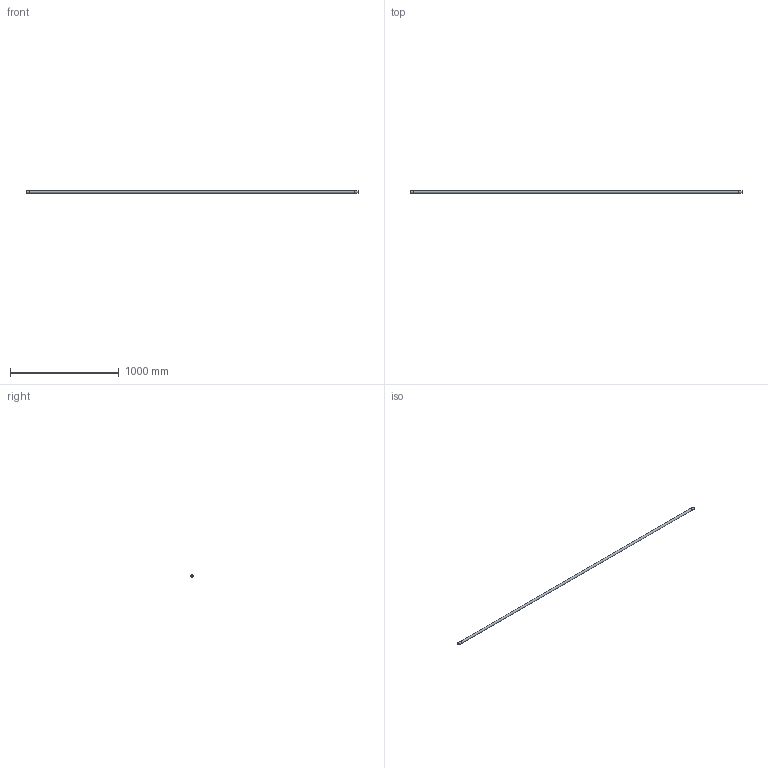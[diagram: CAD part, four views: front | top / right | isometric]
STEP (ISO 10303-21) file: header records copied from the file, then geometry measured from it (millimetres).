
FILE_DESCRIPTION(('FreeCAD Model'),'2;1');
FILE_NAME('Open CASCADE Shape Model','2026-10-12T23:06:14',('Author'),( ''),'Open CASCADE STEP processor 7.8','FreeCAD','Unknown');
FILE_SCHEMA(('AUTOMOTIVE_DESIGN { 1 0 10303 214 1 1 1 1 }'));
Length unit declared in the file: millimetre
Products named in the file (4): noodles; Rope_spaghetti_3m; EndCap_Start; EndCap_End
Assembly tree (3 placements, depth 2):
  noodles
    Rope_spaghetti_3m
    EndCap_Start
    EndCap_End
Bounding box: 3056 x 22.88 x 22.88 mm (x, y, z)
Volume: 1163422.6 mm3; surface area: 213775.2 mm2
Topology: 3 solids, 3 shells, 9 faces, 9 edges, 6 vertices
Faces by surface type: plane 6, cylinder 3
Full cylindrical faces by diameter (mm): 22 x1, 22.88 x2
Entity records: 229 total; most frequent: DIRECTION 41, CARTESIAN_POINT 28, AXIS2_PLACEMENT_3D 19, ORIENTED_EDGE 18, ADVANCED_FACE 9, FACE_BOUND 9, EDGE_LOOP 9, EDGE_CURVE 9
